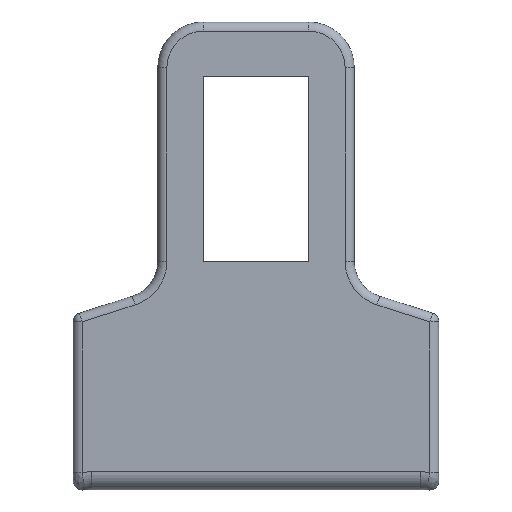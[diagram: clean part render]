
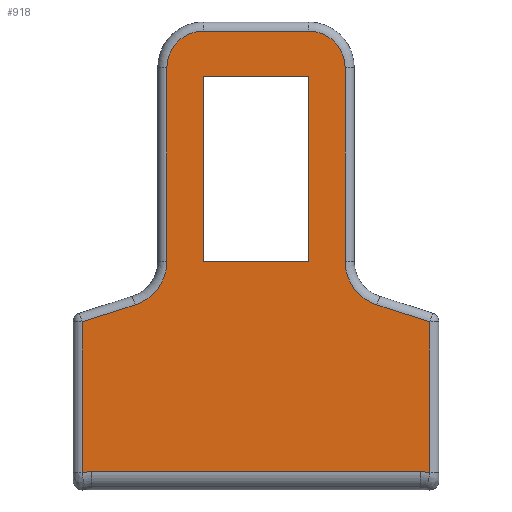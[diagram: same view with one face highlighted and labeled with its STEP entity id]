
A CAD part, top view. The second image highlights one B-rep face of the part: STEP entity #918.
In plain terms, the highlighted planar face has unit normal (0, 0, 1).
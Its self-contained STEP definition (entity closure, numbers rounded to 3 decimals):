
#7 = DIRECTION ( 'NONE',  ( 0., 1., 0. ) ) ;
#28 = DIRECTION ( 'NONE',  ( 0., -1., 0. ) ) ;
#36 = CARTESIAN_POINT ( 'NONE',  ( 13.226, -30.952, 3. ) ) ;
#45 = VECTOR ( 'NONE', #1270, 1000. ) ;
#56 = EDGE_LOOP ( 'NONE', ( #2104, #782, #1156, #2121 ) ) ;
#78 = VECTOR ( 'NONE', #2021, 1000. ) ;
#81 = DIRECTION ( 'NONE',  ( 0., 0., -1. ) ) ;
#86 = VERTEX_POINT ( 'NONE', #190 ) ;
#90 = ORIENTED_EDGE ( 'NONE', *, *, #1756, .T. ) ;
#96 = ORIENTED_EDGE ( 'NONE', *, *, #714, .T. ) ;
#138 = ORIENTED_EDGE ( 'NONE', *, *, #252, .F. ) ;
#140 = CARTESIAN_POINT ( 'NONE',  ( 19., -49.317, 3. ) ) ;
#151 = EDGE_CURVE ( 'NONE', #1785, #1314, #1497, .T. ) ;
#164 = VERTEX_POINT ( 'NONE', #1124 ) ;
#184 = DIRECTION ( 'NONE',  ( 1., 0., 0. ) ) ;
#190 = CARTESIAN_POINT ( 'NONE',  ( 5.75, -26.2, 3. ) ) ;
#204 = DIRECTION ( 'NONE',  ( -1., 0., 0. ) ) ;
#208 = CARTESIAN_POINT ( 'NONE',  ( -5.75, -6., 3. ) ) ;
#217 = LINE ( 'NONE', #208, #2126 ) ;
#238 = VERTEX_POINT ( 'NONE', #1600 ) ;
#252 = EDGE_CURVE ( 'NONE', #164, #1314, #1840, .T. ) ;
#260 = LINE ( 'NONE', #1412, #2119 ) ;
#268 = CARTESIAN_POINT ( 'NONE',  ( 18., -53.19, 3. ) ) ;
#285 = ORIENTED_EDGE ( 'NONE', *, *, #1553, .T. ) ;
#314 = CARTESIAN_POINT ( 'NONE',  ( 19., -26.19, 3. ) ) ;
#329 = EDGE_CURVE ( 'NONE', #1797, #1410, #1851, .T. ) ;
#339 = CARTESIAN_POINT ( 'NONE',  ( 13.226, -30.952, 3. ) ) ;
#351 = ORIENTED_EDGE ( 'NONE', *, *, #1960, .T. ) ;
#399 = DIRECTION ( 'NONE',  ( -0.952, -0.305, 0. ) ) ;
#403 = ORIENTED_EDGE ( 'NONE', *, *, #752, .T. ) ;
#415 = EDGE_CURVE ( 'NONE', #1410, #539, #1839, .T. ) ;
#416 = DIRECTION ( 'NONE',  ( -1., 0., 0. ) ) ;
#421 = LINE ( 'NONE', #1905, #506 ) ;
#445 = DIRECTION ( 'NONE',  ( 0., 1., 0. ) ) ;
#468 = LINE ( 'NONE', #628, #45 ) ;
#473 = AXIS2_PLACEMENT_3D ( 'NONE', #980, #1668, #204 ) ;
#486 = DIRECTION ( 'NONE',  ( -1., 0., 0. ) ) ;
#506 = VECTOR ( 'NONE', #399, 1000. ) ;
#539 = VERTEX_POINT ( 'NONE', #36 ) ;
#606 = AXIS2_PLACEMENT_3D ( 'NONE', #1097, #1255, #1963 ) ;
#618 = VECTOR ( 'NONE', #1516, 1000. ) ;
#628 = CARTESIAN_POINT ( 'NONE',  ( 14.75, -1., 3. ) ) ;
#632 = DIRECTION ( 'NONE',  ( 0., 0., 1. ) ) ;
#641 = VECTOR ( 'NONE', #184, 1000. ) ;
#650 = VECTOR ( 'NONE', #996, 1000. ) ;
#699 = VERTEX_POINT ( 'NONE', #1010 ) ;
#700 = CARTESIAN_POINT ( 'NONE',  ( -14.75, -26.19, 3. ) ) ;
#711 = CARTESIAN_POINT ( 'NONE',  ( -9.75, -5., 3. ) ) ;
#714 = EDGE_CURVE ( 'NONE', #164, #1995, #1681, .T. ) ;
#717 = VERTEX_POINT ( 'NONE', #1471 ) ;
#747 = ORIENTED_EDGE ( 'NONE', *, *, #2018, .T. ) ;
#752 = EDGE_CURVE ( 'NONE', #1700, #717, #1844, .T. ) ;
#757 = CARTESIAN_POINT ( 'NONE',  ( 14.75, -26.19, 3. ) ) ;
#782 = ORIENTED_EDGE ( 'NONE', *, *, #795, .F. ) ;
#795 = EDGE_CURVE ( 'NONE', #1846, #238, #217, .T. ) ;
#802 = DIRECTION ( 'NONE',  ( 0., 0., 1. ) ) ;
#845 = AXIS2_PLACEMENT_3D ( 'NONE', #268, #802, #486 ) ;
#918 = ADVANCED_FACE ( 'NONE', ( #1261, #2086 ), #919, .F. ) ;
#919 = PLANE ( 'NONE',  #1086 ) ;
#930 = DIRECTION ( 'NONE',  ( -1., 0., 0. ) ) ;
#935 = EDGE_CURVE ( 'NONE', #2130, #1846, #260, .T. ) ;
#947 = CIRCLE ( 'NONE', #1435, 4. ) ;
#980 = CARTESIAN_POINT ( 'NONE',  ( 14.75, -26.19, 3. ) ) ;
#983 = VERTEX_POINT ( 'NONE', #1083 ) ;
#995 = EDGE_CURVE ( 'NONE', #983, #1700, #1651, .T. ) ;
#996 = DIRECTION ( 'NONE',  ( -0.952, 0.305, 0. ) ) ;
#1010 = CARTESIAN_POINT ( 'NONE',  ( 5.75, -1., 3. ) ) ;
#1018 = VECTOR ( 'NONE', #445, 1000. ) ;
#1028 = CARTESIAN_POINT ( 'NONE',  ( 5.75, -6., 3. ) ) ;
#1063 = EDGE_CURVE ( 'NONE', #1815, #699, #947, .T. ) ;
#1069 = EDGE_CURVE ( 'NONE', #86, #2130, #1936, .T. ) ;
#1083 = CARTESIAN_POINT ( 'NONE',  ( -5.75, -1., 3. ) ) ;
#1086 = AXIS2_PLACEMENT_3D ( 'NONE', #757, #81, #416 ) ;
#1097 = CARTESIAN_POINT ( 'NONE',  ( -5.75, -5., 3. ) ) ;
#1124 = CARTESIAN_POINT ( 'NONE',  ( -18., -49.19, 3. ) ) ;
#1137 = DIRECTION ( 'NONE',  ( 0., -1., 0. ) ) ;
#1146 = DIRECTION ( 'NONE',  ( 0., -1., 0. ) ) ;
#1156 = ORIENTED_EDGE ( 'NONE', *, *, #935, .F. ) ;
#1175 = EDGE_CURVE ( 'NONE', #238, #86, #1838, .T. ) ;
#1190 = DIRECTION ( 'NONE',  ( 0., 0., -1. ) ) ;
#1231 = CIRCLE ( 'NONE', #473, 5. ) ;
#1246 = ORIENTED_EDGE ( 'NONE', *, *, #1063, .T. ) ;
#1255 = DIRECTION ( 'NONE',  ( 0., 0., 1. ) ) ;
#1261 = FACE_OUTER_BOUND ( 'NONE', #1810, .T. ) ;
#1270 = DIRECTION ( 'NONE',  ( -1., 0., 0. ) ) ;
#1273 = VECTOR ( 'NONE', #7, 1000. ) ;
#1276 = ORIENTED_EDGE ( 'NONE', *, *, #1822, .F. ) ;
#1278 = ORIENTED_EDGE ( 'NONE', *, *, #415, .T. ) ;
#1314 = VERTEX_POINT ( 'NONE', #1552 ) ;
#1335 = LINE ( 'NONE', #1859, #78 ) ;
#1339 = CARTESIAN_POINT ( 'NONE',  ( 5.75, -26.2, 3. ) ) ;
#1410 = VERTEX_POINT ( 'NONE', #2105 ) ;
#1412 = CARTESIAN_POINT ( 'NONE',  ( 5.75, -6., 3. ) ) ;
#1429 = AXIS2_PLACEMENT_3D ( 'NONE', #700, #1190, #1685 ) ;
#1435 = AXIS2_PLACEMENT_3D ( 'NONE', #1776, #1786, #1799 ) ;
#1448 = CARTESIAN_POINT ( 'NONE',  ( 5.75, -6., 3. ) ) ;
#1461 = VERTEX_POINT ( 'NONE', #1574 ) ;
#1471 = CARTESIAN_POINT ( 'NONE',  ( -9.75, -26.19, 3. ) ) ;
#1497 = LINE ( 'NONE', #2174, #2090 ) ;
#1516 = DIRECTION ( 'NONE',  ( 1., 0., 0. ) ) ;
#1551 = VECTOR ( 'NONE', #1146, 1000. ) ;
#1552 = CARTESIAN_POINT ( 'NONE',  ( -19., -49.317, 3. ) ) ;
#1553 = EDGE_CURVE ( 'NONE', #717, #1461, #1933, .T. ) ;
#1574 = CARTESIAN_POINT ( 'NONE',  ( -13.226, -30.952, 3. ) ) ;
#1586 = ORIENTED_EDGE ( 'NONE', *, *, #2089, .T. ) ;
#1588 = DIRECTION ( 'NONE',  ( -1., 0., 0. ) ) ;
#1600 = CARTESIAN_POINT ( 'NONE',  ( -5.75, -26.2, 3. ) ) ;
#1611 = ORIENTED_EDGE ( 'NONE', *, *, #995, .T. ) ;
#1651 = CIRCLE ( 'NONE', #606, 4. ) ;
#1653 = ORIENTED_EDGE ( 'NONE', *, *, #151, .T. ) ;
#1668 = DIRECTION ( 'NONE',  ( 0., 0., -1. ) ) ;
#1681 = LINE ( 'NONE', #2162, #618 ) ;
#1684 = ORIENTED_EDGE ( 'NONE', *, *, #329, .T. ) ;
#1685 = DIRECTION ( 'NONE',  ( -1., 0., 0. ) ) ;
#1700 = VERTEX_POINT ( 'NONE', #711 ) ;
#1756 = EDGE_CURVE ( 'NONE', #1461, #1785, #421, .T. ) ;
#1765 = CARTESIAN_POINT ( 'NONE',  ( 9.75, -5., 3. ) ) ;
#1767 = CARTESIAN_POINT ( 'NONE',  ( 18., -49.19, 3. ) ) ;
#1776 = CARTESIAN_POINT ( 'NONE',  ( 5.75, -5., 3. ) ) ;
#1782 = CARTESIAN_POINT ( 'NONE',  ( -18., -53.19, 3. ) ) ;
#1785 = VERTEX_POINT ( 'NONE', #1937 ) ;
#1786 = DIRECTION ( 'NONE',  ( 0., 0., 1. ) ) ;
#1797 = VERTEX_POINT ( 'NONE', #140 ) ;
#1799 = DIRECTION ( 'NONE',  ( -1., 0., 0. ) ) ;
#1810 = EDGE_LOOP ( 'NONE', ( #1276, #1684, #1278, #747, #1586, #1246, #351, #1611, #403, #285, #90, #1653, #138, #96 ) ) ;
#1813 = CARTESIAN_POINT ( 'NONE',  ( -9.75, -26.19, 3. ) ) ;
#1815 = VERTEX_POINT ( 'NONE', #1765 ) ;
#1822 = EDGE_CURVE ( 'NONE', #1797, #1995, #1912, .T. ) ;
#1838 = LINE ( 'NONE', #1339, #641 ) ;
#1839 = LINE ( 'NONE', #339, #650 ) ;
#1840 = CIRCLE ( 'NONE', #1987, 4. ) ;
#1844 = LINE ( 'NONE', #1813, #1551 ) ;
#1846 = VERTEX_POINT ( 'NONE', #2149 ) ;
#1851 = LINE ( 'NONE', #314, #1273 ) ;
#1859 = CARTESIAN_POINT ( 'NONE',  ( 9.75, -26.19, 3. ) ) ;
#1905 = CARTESIAN_POINT ( 'NONE',  ( 13.533, -22.389, 3. ) ) ;
#1912 = CIRCLE ( 'NONE', #845, 4. ) ;
#1923 = VERTEX_POINT ( 'NONE', #1966 ) ;
#1933 = CIRCLE ( 'NONE', #1429, 5. ) ;
#1936 = LINE ( 'NONE', #1448, #1018 ) ;
#1937 = CARTESIAN_POINT ( 'NONE',  ( -19., -32.8, 3. ) ) ;
#1960 = EDGE_CURVE ( 'NONE', #699, #983, #468, .T. ) ;
#1963 = DIRECTION ( 'NONE',  ( -1., 0., 0. ) ) ;
#1966 = CARTESIAN_POINT ( 'NONE',  ( 9.75, -26.19, 3. ) ) ;
#1987 = AXIS2_PLACEMENT_3D ( 'NONE', #1782, #632, #930 ) ;
#1995 = VERTEX_POINT ( 'NONE', #1767 ) ;
#2018 = EDGE_CURVE ( 'NONE', #539, #1923, #1231, .T. ) ;
#2021 = DIRECTION ( 'NONE',  ( 0., 1., 0. ) ) ;
#2086 = FACE_BOUND ( 'NONE', #56, .T. ) ;
#2089 = EDGE_CURVE ( 'NONE', #1923, #1815, #1335, .T. ) ;
#2090 = VECTOR ( 'NONE', #1137, 1000. ) ;
#2104 = ORIENTED_EDGE ( 'NONE', *, *, #1175, .F. ) ;
#2105 = CARTESIAN_POINT ( 'NONE',  ( 19., -32.8, 3. ) ) ;
#2119 = VECTOR ( 'NONE', #1588, 1000. ) ;
#2121 = ORIENTED_EDGE ( 'NONE', *, *, #1069, .F. ) ;
#2126 = VECTOR ( 'NONE', #28, 1000. ) ;
#2130 = VERTEX_POINT ( 'NONE', #1028 ) ;
#2149 = CARTESIAN_POINT ( 'NONE',  ( -5.75, -6., 3. ) ) ;
#2162 = CARTESIAN_POINT ( 'NONE',  ( 14.75, -49.19, 3. ) ) ;
#2174 = CARTESIAN_POINT ( 'NONE',  ( -19., -26.19, 3. ) ) ;
